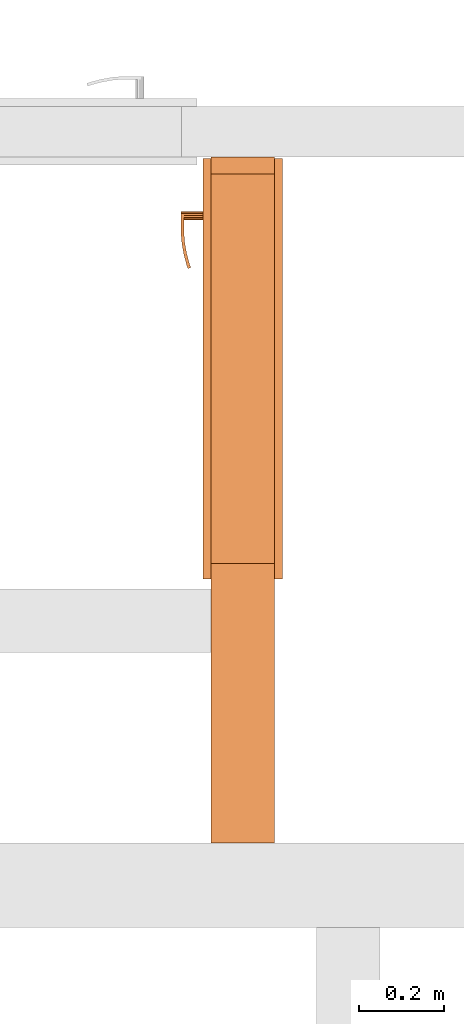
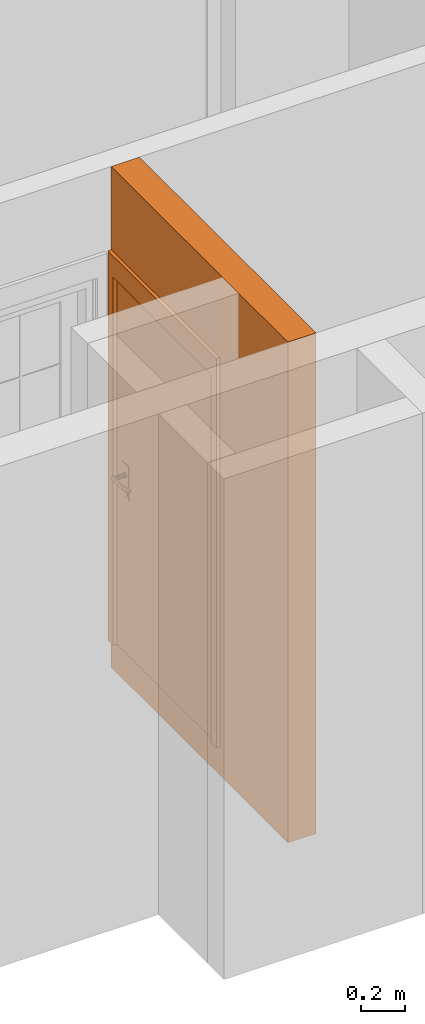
# One storey, part 33 of 66: 2 proxies, 1 opening.
"""IFC2X3 building model written with IfcOpenShell, lengths in millimetres."""

from ifc_helpers import new_model, entity, si_unit, converted_unit, derived_unit, money_unit, direction, frame, origin_with_axes, origin_2d_with_axis, place, context, subcontext, project, spatial, rectangle, extrude, open_shell, faceted_brep, surface_model, source, transform, mapped, material, type_object, element, fill, save


model = new_model("IFC2X3")

# Units and contexts
model_context = context("Model", 3, precision=0.01, world=origin_with_axes(), true_north=direction((0.34421633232, 0.938890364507)))
body_context = subcontext(model_context, "Body", "Model", "MODEL_VIEW")
ifc_project = project(units=[si_unit("LENGTHUNIT", "METRE", prefix="MILLI"), si_unit("AREAUNIT", "SQUARE_METRE"), si_unit("VOLUMEUNIT", "CUBIC_METRE"), converted_unit("PLANEANGLEUNIT", "DEGREE", entity("IfcPlaneAngleMeasure", 0.0174532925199), si_unit("PLANEANGLEUNIT", "RADIAN"), dimensions=[0, 0, 0, 0, 0, 0, 0]), si_unit("SOLIDANGLEUNIT", "STERADIAN"), money_unit("USD"), converted_unit("TIMEUNIT", "Year", entity("IfcTimeMeasure", 31556926.0), si_unit("TIMEUNIT", "SECOND"), dimensions=[0, 0, 1, 0, 0, 0, 0]), si_unit("MASSUNIT", "GRAM", prefix="KILO"), si_unit("THERMODYNAMICTEMPERATUREUNIT", "DEGREE_CELSIUS"), si_unit("LUMINOUSINTENSITYUNIT", "LUMEN"), si_unit("ENERGYUNIT", "JOULE", prefix="MEGA"), derived_unit("THERMALCONDUCTANCEUNIT", [(si_unit("POWERUNIT", "WATT"), 1), (si_unit("LENGTHUNIT", "METRE"), -1), (si_unit("THERMODYNAMICTEMPERATUREUNIT", "KELVIN"), -1)]), derived_unit("SPECIFICHEATCAPACITYUNIT", [(si_unit("ENERGYUNIT", "JOULE"), 1), (si_unit("MASSUNIT", "GRAM", prefix="KILO"), -1), (si_unit("THERMODYNAMICTEMPERATUREUNIT", "KELVIN"), -1)]), derived_unit("MASSDENSITYUNIT", [(si_unit("MASSUNIT", "GRAM", prefix="KILO"), 1), (si_unit("VOLUMEUNIT", "CUBIC_METRE"), -1)])], contexts=[model_context])

# Site, building, storey
site_placement = place(None, origin_with_axes())
site = spatial("IfcSite", under=ifc_project, at=site_placement, Name="USTRONIE MORSKIE", CompositionType="ELEMENT")
building_placement = place(site_placement, origin_with_axes())
building = spatial("IfcBuilding", under=site, at=building_placement, Name="Budynek", CompositionType="ELEMENT")
storey_placement = place(building_placement, frame((0.0, 0.0, 10000.0), z_axis=(0.0, 0.0, 1.0), x_axis=(1.0, 0.0, 0.0)))
storey = spatial("IfcBuildingStorey", under=building, at=storey_placement, Name="PIĘTRO 3", CompositionType="ELEMENT", Elevation=10000.0)

# Proxies, opening
ifc_material = material(Name="Bloczki silikatowe")
building_element_proxy_type_1 = type_object("IfcBuildingElementProxyType", Name="Bloczki silikatowe 150", PredefinedType="NOTDEFINED")
proxy_1_placement = place(storey_placement, frame((422592.920919, 744701.199036, -160.0), z_axis=(0.0, 0.0, 1.0), x_axis=(0.0, 1.0, 0.0)))
proxy_1 = element("IfcBuildingElementProxy", 1, at=proxy_1_placement, inside=storey, type_object=building_element_proxy_type_1, material=ifc_material, Name="SW-03", context=body_context, shape_type="Brep", body=[
    faceted_brep([(1720.0, 75.0, 0.0), (1720.0, -75.0, 0.0), (100.0, -75.0, 0.0), (100.0, 75.0, 0.0), (1720.0, 75.0, 2800.0), (1720.0, -75.0, 2800.0), (100.0, -75.0, 2800.0), (100.0, 75.0, 2800.0)], [[[0, 1, 2, 3]], [[1, 0, 4, 5]], [[1, 5, 6, 2]], [[7, 3, 2, 6]], [[4, 0, 3, 7]], [[5, 4, 7, 6]]]),
])
opening_placement = place(proxy_1_placement, frame((1220.0, 0.0, 160.0), z_axis=(0.0, 0.0, 1.0), x_axis=(1.0, 0.0, 0.0)))
opening = element("IfcOpeningElement", 2, at=opening_placement, cuts=proxy_1, Name="Dw.4", context=body_context, shape_type="SweptSolid", body=[
    extrude(rectangle(XDim=920.0, YDim=2070.0, at=origin_2d_with_axis()), frame((0.0, -150.0, 1035.0), z_axis=(0.0, -1.0, 0.0), x_axis=(-1.0, 0.0, 0.0)), (0.0, 0.0, -1.0), 450.0),
    extrude(rectangle(XDim=994.0, YDim=2177.0, at=origin_2d_with_axis()), frame((0.0, -75.0, 1088.5), z_axis=(0.0, -1.0, 0.0), x_axis=(-1.0, 0.0, 0.0)), (0.0, 0.0, 1.0), 150.0),
    extrude(rectangle(XDim=994.0, YDim=2177.0, at=origin_2d_with_axis()), frame((0.0, 75.0, 1088.5), z_axis=(0.0, 1.0, 0.0), x_axis=(-1.0, 0.0, 0.0)), (0.0, 0.0, 1.0), 150.0),
])
building_element_proxy_type_2 = type_object("IfcBuildingElementProxyType", Name="Drzwi 23", PredefinedType="NOTDEFINED")
shared_shape = source(origin_with_axes(), body_context, "Body", "SurfaceModel", [
    faceted_brep([(460.0, -115.0, 0.0), (460.0, -150.0, 0.0), (435.0, -150.0, 0.0), (435.0, -115.0, 0.0), (460.0, -115.0, 2070.0), (460.0, -150.0, 2070.0), (435.0, -150.0, 2045.0), (435.0, -115.0, 2045.0)], [[[0, 1, 2, 3]], [[4, 5, 1, 0]], [[1, 5, 6, 2]], [[3, 2, 6, 7]], [[0, 3, 7, 4]], [[7, 6, 5, 4]]]),
    faceted_brep([(-460.0, -115.0, 2070.0), (-460.0, -150.0, 2070.0), (-435.0, -150.0, 2045.0), (-435.0, -115.0, 2045.0), (-460.0, -115.0, 0.0), (-460.0, -150.0, 0.0), (-435.0, -150.0, 0.0), (-435.0, -115.0, 0.0)], [[[0, 1, 2, 3]], [[4, 5, 1, 0]], [[1, 5, 6, 2]], [[3, 2, 6, 7]], [[0, 3, 7, 4]], [[7, 6, 5, 4]]]),
    faceted_brep([(435.0, -115.0, 2045.0), (435.0, -150.0, 2045.0), (-435.0, -150.0, 2045.0), (-435.0, -115.0, 2045.0), (460.0, -115.0, 2070.0), (460.0, -150.0, 2070.0), (-460.0, -150.0, 2070.0), (-460.0, -115.0, 2070.0)], [[[0, 1, 2, 3]], [[4, 5, 1, 0]], [[1, 5, 6, 2]], [[3, 2, 6, 7]], [[0, 3, 7, 4]], [[7, 6, 5, 4]]]),
    faceted_brep([(497.0, -169.0, 0.0), (447.0, -169.0, 0.0), (447.0, -150.0, 0.0), (497.0, -150.0, 0.0), (497.0, -169.0, 2177.0), (447.0, -169.0, 2057.0), (447.0, -150.0, 2057.0), (497.0, -150.0, 2177.0)], [[[0, 1, 2, 3]], [[0, 4, 5, 1]], [[1, 5, 6, 2]], [[3, 2, 6, 7]], [[4, 0, 3, 7]], [[5, 4, 7, 6]]]),
    faceted_brep([(-497.0, -169.0, 2177.0), (-447.0, -169.0, 2057.0), (-447.0, -150.0, 2057.0), (-497.0, -150.0, 2177.0), (-497.0, -169.0, 0.0), (-447.0, -169.0, 0.0), (-447.0, -150.0, 0.0), (-497.0, -150.0, 0.0)], [[[0, 1, 2, 3]], [[0, 4, 5, 1]], [[1, 5, 6, 2]], [[3, 2, 6, 7]], [[4, 0, 3, 7]], [[5, 4, 7, 6]]]),
    faceted_brep([(497.0, -169.0, 2177.0), (447.0, -169.0, 2057.0), (447.0, -150.0, 2057.0), (497.0, -150.0, 2177.0), (-497.0, -169.0, 2177.0), (-447.0, -169.0, 2057.0), (-447.0, -150.0, 2057.0), (-497.0, -150.0, 2177.0)], [[[0, 1, 2, 3]], [[0, 4, 5, 1]], [[1, 5, 6, 2]], [[3, 2, 6, 7]], [[4, 0, 3, 7]], [[5, 4, 7, 6]]]),
    faceted_brep([(497.0, 19.0, 0.0), (497.0, 0.0, 0.0), (447.0, 0.0, 0.0), (447.0, 19.0, 0.0), (497.0, 19.0, 2177.0), (497.0, 0.0, 2177.0), (447.0, 0.0, 2057.0), (447.0, 19.0, 2057.0)], [[[0, 1, 2, 3]], [[4, 5, 1, 0]], [[1, 5, 6, 2]], [[3, 2, 6, 7]], [[0, 3, 7, 4]], [[7, 6, 5, 4]]]),
    faceted_brep([(-497.0, 19.0, 2177.0), (-497.0, 0.0, 2177.0), (-447.0, 0.0, 2057.0), (-447.0, 19.0, 2057.0), (-497.0, 19.0, 0.0), (-497.0, 0.0, 0.0), (-447.0, 0.0, 0.0), (-447.0, 19.0, 0.0)], [[[0, 1, 2, 3]], [[4, 5, 1, 0]], [[1, 5, 6, 2]], [[3, 2, 6, 7]], [[0, 3, 7, 4]], [[7, 6, 5, 4]]]),
    faceted_brep([(497.0, 19.0, 2177.0), (497.0, 0.0, 2177.0), (447.0, 0.0, 2057.0), (447.0, 19.0, 2057.0), (-497.0, 19.0, 2177.0), (-497.0, 0.0, 2177.0), (-447.0, 0.0, 2057.0), (-447.0, 19.0, 2057.0)], [[[0, 1, 2, 3]], [[4, 5, 1, 0]], [[1, 5, 6, 2]], [[3, 2, 6, 7]], [[0, 3, 7, 4]], [[7, 6, 5, 4]]]),
    faceted_brep([(400.0, -40.0, 0.0), (400.0, -115.0, 0.0), (400.0, -115.0, 2000.0), (400.0, -40.0, 2000.0), (412.0, -40.0, 0.0), (412.0, 0.0, 0.0), (460.0, 0.0, 0.0), (460.0, -115.0, 0.0), (460.0, -115.0, 2000.0), (412.0, -40.0, 2000.0), (460.0, 0.0, 2000.0), (412.0, 0.0, 2000.0)], [[[0, 1, 2, 3]], [[4, 5, 6, 7, 1, 0]], [[1, 7, 8, 2]], [[9, 3, 2, 8, 10, 11]], [[9, 4, 0, 3]], [[11, 5, 4, 9]], [[11, 10, 6, 5]], [[6, 10, 8, 7]]]),
    faceted_brep([(-412.0, -40.0, 2000.0), (-412.0, 0.0, 2000.0), (-460.0, 0.0, 2000.0), (-460.0, -115.0, 2000.0), (-400.0, -115.0, 2000.0), (-400.0, -40.0, 2000.0), (-412.0, -40.0, 0.0), (-412.0, 0.0, 0.0), (-460.0, 0.0, 0.0), (-460.0, -115.0, 0.0), (-400.0, -115.0, 0.0), (-400.0, -40.0, 0.0)], [[[0, 1, 2, 3, 4, 5]], [[0, 6, 7, 1]], [[7, 8, 2, 1]], [[2, 8, 9, 3]], [[3, 9, 10, 4]], [[5, 4, 10, 11]], [[5, 11, 6, 0]], [[6, 11, 10, 9, 8, 7]]]),
    faceted_brep([(412.0, 0.0, 2012.0), (-412.0, 0.0, 2012.0), (-412.0, 0.0, 2000.0), (-460.0, 0.0, 2000.0), (-460.0, 0.0, 2070.0), (460.0, 0.0, 2070.0), (460.0, 0.0, 2000.0), (412.0, 0.0, 2000.0), (412.0, -40.0, 2012.0), (-412.0, -40.0, 2012.0), (-412.0, -40.0, 2000.0), (-400.0, -40.0, 2000.0), (-400.0, -115.0, 2000.0), (-460.0, -115.0, 2000.0), (-460.0, -115.0, 2070.0), (460.0, -115.0, 2070.0), (460.0, -115.0, 2000.0), (412.0, -40.0, 2000.0), (400.0, -115.0, 2000.0), (400.0, -40.0, 2000.0)], [[[0, 1, 2, 3, 4, 5, 6, 7]], [[0, 8, 9, 1]], [[1, 9, 10, 2]], [[10, 11, 12, 13, 3, 2]], [[4, 3, 13, 14]], [[5, 4, 14, 15]], [[6, 5, 15, 16]], [[17, 7, 6, 16, 18, 19]], [[7, 17, 8, 0]], [[10, 9, 8, 17, 19, 11]], [[19, 18, 12, 11]], [[12, 18, 16, 15, 14, 13]]]),
    faceted_brep([(390.5, -40.0, 1060.0), (333.5, -40.0, 1060.0), (333.5, -43.0, 1060.0), (390.5, -43.0, 1060.0), (390.5, -40.0, 870.0), (333.5, -40.0, 870.0), (333.5, -43.0, 870.0), (390.5, -43.0, 870.0)], [[[0, 1, 2, 3]], [[0, 4, 5, 1]], [[1, 5, 6, 2]], [[3, 2, 6, 7]], [[4, 0, 3, 7]], [[5, 4, 7, 6]]]),
    faceted_brep([(362.0, -104.0, 990.0), (367.0, -104.0, 991.339745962), (367.0, -111.0, 991.339745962), (362.0, -111.0, 990.0), (337.0, -104.0, 990.0), (337.0, -104.0, 1010.0), (362.0, -104.0, 1010.0), (367.0, -104.0, 1008.66025404), (370.660254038, -104.0, 1005.0), (372.0, -104.0, 1000.0), (370.660254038, -104.0, 995.0), (370.660254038, -111.0, 995.0), (372.0, -111.0, 1000.0), (370.660254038, -111.0, 1005.0), (367.0, -111.0, 1008.66025404), (362.0, -111.0, 1010.0), (337.0, -111.0, 1010.0), (337.0, -111.0, 990.0)], [[[0, 1, 2, 3]], [[0, 4, 5, 6, 7, 8, 9, 10, 1]], [[1, 10, 11, 2]], [[3, 2, 11, 12, 13, 14, 15, 16, 17]], [[4, 0, 3, 17]], [[5, 4, 17, 16]], [[6, 5, 16, 15]], [[7, 6, 15, 14]], [[8, 7, 14, 13]], [[9, 8, 13, 12]], [[10, 9, 12, 11]]]),
    surface_model("IfcShellBasedSurfaceModel", [(337.0, -104.0, 1010.0), (323.901717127, -104.0, 1009.60730092), (323.596090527, -111.0, 1009.60730092), (337.0, -104.0, 990.0), (323.901717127, -104.0, 990.392699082), (296.890283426, -108.663544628, 1008.82190275), (337.0, -111.0, 1010.0), (337.0, -111.0, 990.0), (297.804837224, -101.716818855, 991.178097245), (297.804837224, -101.716818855, 1008.82190275), (296.890283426, -108.663544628, 991.178097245), (323.596090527, -111.0, 990.392699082), (272.006256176, -97.1678329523, 991.963495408), (272.006256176, -97.1678329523, 1008.03650459), (270.489735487, -104.008415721, 1008.03650459), (270.489735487, -104.008415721, 991.963495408), (246.702316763, -90.3876628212, 992.748893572), (246.702316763, -90.3876628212, 1007.25110643), (244.59537082, -97.0700416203, 1007.25110643), (244.59537082, -97.0700416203, 992.748893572), (238.829442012, -87.5221707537, 993.0), (238.829442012, -87.5221707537, 1007.0), (236.538795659, -94.1376880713, 1007.0), (236.538795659, -94.1376880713, 993.0)], [open_shell([[[0, 1, 2]], [[0, 3, 4, 1]], [[1, 5, 2]], [[0, 2, 6]], [[4, 3, 7]], [[1, 4, 8, 9]], [[1, 9, 5]], [[2, 5, 10, 11]], [[6, 2, 11, 7]], [[4, 7, 11]], [[8, 4, 11]], [[9, 8, 12, 13]], [[9, 14, 5]], [[5, 14, 15, 10]], [[8, 11, 10]], [[12, 8, 10]], [[13, 12, 16, 17]], [[9, 13, 14]], [[14, 18, 19, 15]], [[12, 10, 15]], [[16, 12, 15]], [[17, 16, 20, 21]], [[13, 17, 18]], [[13, 18, 14]], [[18, 22, 23, 19]], [[16, 15, 19]], [[20, 16, 19]], [[21, 20, 23, 22]], [[17, 21, 22]], [[17, 22, 18]], [[20, 19, 23]]])]),
    faceted_brep([(351.607695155, -53.0, 994.0), (350.0, -53.0, 1000.0), (349.0, -43.0, 1000.0), (350.741669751, -43.0, 993.5), (356.0, -53.0, 989.607695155), (362.0, -53.0, 988.0), (368.0, -53.0, 989.607695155), (372.392304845, -53.0, 994.0), (374.0, -53.0, 1000.0), (372.392304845, -53.0, 1006.0), (368.0, -53.0, 1010.39230485), (362.0, -53.0, 1012.0), (356.0, -53.0, 1010.39230485), (351.607695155, -53.0, 1006.0), (350.741669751, -43.0, 1006.5), (355.5, -43.0, 1011.25833025), (362.0, -43.0, 1013.0), (368.5, -43.0, 1011.25833025), (373.258330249, -43.0, 1006.5), (375.0, -43.0, 1000.0), (373.258330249, -43.0, 993.5), (368.5, -43.0, 988.741669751), (362.0, -43.0, 987.0), (355.5, -43.0, 988.741669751)], [[[0, 1, 2, 3]], [[1, 0, 4, 5, 6, 7, 8, 9, 10, 11, 12, 13]], [[1, 13, 14, 2]], [[2, 14, 15, 16, 17, 18, 19, 20, 21, 22, 23, 3]], [[4, 0, 3, 23]], [[5, 4, 23, 22]], [[6, 5, 22, 21]], [[7, 6, 21, 20]], [[8, 7, 20, 19]], [[9, 8, 19, 18]], [[10, 9, 18, 17]], [[11, 10, 17, 16]], [[12, 11, 16, 15]], [[13, 12, 15, 14]]]),
    faceted_brep([(344.679491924, -47.0, 895.0), (342.0, -47.0, 905.0), (340.0, -43.0, 905.0), (342.947441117, -43.0, 894.0), (352.0, -47.0, 887.679491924), (362.0, -47.0, 885.0), (372.0, -47.0, 887.679491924), (379.320508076, -47.0, 895.0), (382.0, -47.0, 905.0), (379.320508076, -47.0, 915.0), (372.0, -47.0, 922.320508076), (362.0, -47.0, 925.0), (352.0, -47.0, 922.320508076), (344.679491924, -47.0, 915.0), (342.947441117, -43.0, 916.0), (351.0, -43.0, 924.052558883), (362.0, -43.0, 927.0), (373.0, -43.0, 924.052558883), (381.052558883, -43.0, 916.0), (384.0, -43.0, 905.0), (381.052558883, -43.0, 894.0), (373.0, -43.0, 885.947441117), (362.0, -43.0, 883.0), (351.0, -43.0, 885.947441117)], [[[0, 1, 2, 3]], [[1, 0, 4, 5, 6, 7, 8, 9, 10, 11, 12, 13]], [[1, 13, 14, 2]], [[2, 14, 15, 16, 17, 18, 19, 20, 21, 22, 23, 3]], [[4, 0, 3, 23]], [[5, 4, 23, 22]], [[6, 5, 22, 21]], [[7, 6, 21, 20]], [[8, 7, 20, 19]], [[9, 8, 19, 18]], [[10, 9, 18, 17]], [[11, 10, 17, 16]], [[12, 11, 16, 15]], [[13, 12, 15, 14]]]),
    faceted_brep([(357.050252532, -49.0, 909.050252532), (355.0, -49.0, 914.0), (354.0, -47.0, 914.0), (356.343145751, -47.0, 908.343145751), (362.0, -49.0, 907.0), (366.949747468, -49.0, 909.050252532), (369.0, -49.0, 914.0), (366.949747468, -49.0, 918.949747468), (362.0, -49.0, 921.0), (357.050252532, -49.0, 918.949747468), (356.343145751, -47.0, 919.656854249), (362.0, -47.0, 922.0), (367.656854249, -47.0, 919.656854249), (370.0, -47.0, 914.0), (367.656854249, -47.0, 908.343145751), (362.0, -47.0, 906.0)], [[[0, 1, 2, 3]], [[1, 0, 4, 5, 6, 7, 8, 9]], [[1, 9, 10, 2]], [[2, 10, 11, 12, 13, 14, 15, 3]], [[4, 0, 3, 15]], [[5, 4, 15, 14]], [[6, 5, 14, 13]], [[7, 6, 13, 12]], [[8, 7, 12, 11]], [[9, 8, 11, 10]]]),
    faceted_brep([(362.0, -53.0, 1010.0), (357.0, -53.0, 1008.66025404), (357.0, -104.0, 1008.66025404), (362.0, -104.0, 1010.0), (367.0, -53.0, 1008.66025404), (370.660254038, -53.0, 1005.0), (372.0, -53.0, 1000.0), (370.660254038, -53.0, 995.0), (367.0, -53.0, 991.339745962), (362.0, -53.0, 990.0), (357.0, -53.0, 991.339745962), (353.339745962, -53.0, 995.0), (352.0, -53.0, 1000.0), (353.339745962, -53.0, 1005.0), (353.339745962, -104.0, 1005.0), (352.0, -104.0, 1000.0), (353.339745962, -104.0, 995.0), (357.0, -104.0, 991.339745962), (362.0, -104.0, 990.0), (367.0, -104.0, 991.339745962), (370.660254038, -104.0, 995.0), (372.0, -104.0, 1000.0), (370.660254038, -104.0, 1005.0), (367.0, -104.0, 1008.66025404)], [[[0, 1, 2, 3]], [[0, 4, 5, 6, 7, 8, 9, 10, 11, 12, 13, 1]], [[1, 13, 14, 2]], [[3, 2, 14, 15, 16, 17, 18, 19, 20, 21, 22, 23]], [[4, 0, 3, 23]], [[5, 4, 23, 22]], [[6, 5, 22, 21]], [[7, 6, 21, 20]], [[8, 7, 20, 19]], [[9, 8, 19, 18]], [[10, 9, 18, 17]], [[11, 10, 17, 16]], [[12, 11, 16, 15]], [[13, 12, 15, 14]]]),
    faceted_brep([(390.5, 0.0, 1060.0), (390.5, 3.0, 1060.0), (333.5, 3.0, 1060.0), (333.5, 0.0, 1060.0), (390.5, 0.0, 870.0), (390.5, 3.0, 870.0), (333.5, 3.0, 870.0), (333.5, 0.0, 870.0)], [[[0, 1, 2, 3]], [[4, 5, 1, 0]], [[1, 5, 6, 2]], [[3, 2, 6, 7]], [[0, 3, 7, 4]], [[7, 6, 5, 4]]]),
    faceted_brep([(362.0, 64.0, 990.0), (362.0, 71.0, 990.0), (367.0, 71.0, 991.339745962), (367.0, 64.0, 991.339745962), (337.0, 64.0, 990.0), (337.0, 71.0, 990.0), (337.0, 71.0, 1010.0), (362.0, 71.0, 1010.0), (367.0, 71.0, 1008.66025404), (370.660254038, 71.0, 1005.0), (372.0, 71.0, 1000.0), (370.660254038, 71.0, 995.0), (370.660254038, 64.0, 995.0), (372.0, 64.0, 1000.0), (370.660254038, 64.0, 1005.0), (367.0, 64.0, 1008.66025404), (362.0, 64.0, 1010.0), (337.0, 64.0, 1010.0)], [[[0, 1, 2, 3]], [[4, 5, 1, 0]], [[1, 5, 6, 7, 8, 9, 10, 11, 2]], [[3, 2, 11, 12]], [[0, 3, 12, 13, 14, 15, 16, 17, 4]], [[17, 6, 5, 4]], [[16, 7, 6, 17]], [[15, 8, 7, 16]], [[14, 9, 8, 15]], [[13, 10, 9, 14]], [[12, 11, 10, 13]]]),
    surface_model("IfcShellBasedSurfaceModel", [(337.0, 64.0, 1010.0), (323.596090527, 71.0, 1009.60730092), (323.901717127, 64.0, 1009.60730092), (337.0, 71.0, 1010.0), (296.890283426, 68.6635446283, 1008.82190275), (323.901717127, 64.0, 990.392699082), (337.0, 64.0, 990.0), (337.0, 71.0, 990.0), (323.596090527, 71.0, 990.392699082), (296.890283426, 68.6635446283, 991.178097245), (297.804837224, 61.716818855, 1008.82190275), (297.804837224, 61.716818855, 991.178097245), (270.489735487, 64.0084157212, 991.963495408), (270.489735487, 64.0084157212, 1008.03650459), (272.006256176, 57.1678329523, 1008.03650459), (272.006256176, 57.1678329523, 991.963495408), (244.59537082, 57.0700416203, 992.748893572), (244.59537082, 57.0700416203, 1007.25110643), (246.702316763, 50.3876628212, 1007.25110643), (246.702316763, 50.3876628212, 992.748893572), (236.538795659, 54.1376880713, 993.0), (236.538795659, 54.1376880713, 1007.0), (238.829442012, 47.5221707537, 1007.0), (238.829442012, 47.5221707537, 993.0)], [open_shell([[[0, 1, 2]], [[0, 3, 1]], [[2, 1, 4]], [[0, 2, 5, 6]], [[3, 7, 8, 1]], [[1, 8, 9, 4]], [[2, 4, 10]], [[2, 10, 11, 5]], [[5, 7, 6]], [[5, 8, 7]], [[11, 9, 8]], [[4, 9, 12, 13]], [[10, 4, 13]], [[10, 14, 15, 11]], [[11, 8, 5]], [[15, 9, 11]], [[15, 12, 9]], [[13, 12, 16, 17]], [[10, 13, 14]], [[14, 18, 19, 15]], [[19, 12, 15]], [[19, 16, 12]], [[17, 16, 20, 21]], [[14, 13, 17]], [[14, 17, 18]], [[18, 22, 23, 19]], [[23, 16, 19]], [[23, 20, 16]], [[22, 21, 20, 23]], [[18, 17, 21]], [[18, 21, 22]]])]),
    faceted_brep([(351.607695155, 13.0, 994.0), (350.741669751, 3.0, 993.5), (349.0, 3.0, 1000.0), (350.0, 13.0, 1000.0), (356.0, 13.0, 989.607695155), (355.5, 3.0, 988.741669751), (362.0, 3.0, 987.0), (368.5, 3.0, 988.741669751), (373.258330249, 3.0, 993.5), (375.0, 3.0, 1000.0), (373.258330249, 3.0, 1006.5), (368.5, 3.0, 1011.25833025), (362.0, 3.0, 1013.0), (355.5, 3.0, 1011.25833025), (350.741669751, 3.0, 1006.5), (351.607695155, 13.0, 1006.0), (356.0, 13.0, 1010.39230485), (362.0, 13.0, 1012.0), (368.0, 13.0, 1010.39230485), (372.392304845, 13.0, 1006.0), (374.0, 13.0, 1000.0), (372.392304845, 13.0, 994.0), (368.0, 13.0, 989.607695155), (362.0, 13.0, 988.0)], [[[0, 1, 2, 3]], [[4, 5, 1, 0]], [[2, 1, 5, 6, 7, 8, 9, 10, 11, 12, 13, 14]], [[3, 2, 14, 15]], [[3, 15, 16, 17, 18, 19, 20, 21, 22, 23, 4, 0]], [[23, 6, 5, 4]], [[22, 7, 6, 23]], [[21, 8, 7, 22]], [[20, 9, 8, 21]], [[19, 10, 9, 20]], [[18, 11, 10, 19]], [[17, 12, 11, 18]], [[16, 13, 12, 17]], [[15, 14, 13, 16]]]),
    faceted_brep([(344.679491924, 7.0, 895.0), (342.947441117, 3.0, 894.0), (340.0, 3.0, 905.0), (342.0, 7.0, 905.0), (352.0, 7.0, 887.679491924), (351.0, 3.0, 885.947441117), (362.0, 3.0, 883.0), (373.0, 3.0, 885.947441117), (381.052558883, 3.0, 894.0), (384.0, 3.0, 905.0), (381.052558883, 3.0, 916.0), (373.0, 3.0, 924.052558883), (362.0, 3.0, 927.0), (351.0, 3.0, 924.052558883), (342.947441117, 3.0, 916.0), (344.679491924, 7.0, 915.0), (352.0, 7.0, 922.320508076), (362.0, 7.0, 925.0), (372.0, 7.0, 922.320508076), (379.320508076, 7.0, 915.0), (382.0, 7.0, 905.0), (379.320508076, 7.0, 895.0), (372.0, 7.0, 887.679491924), (362.0, 7.0, 885.0)], [[[0, 1, 2, 3]], [[4, 5, 1, 0]], [[2, 1, 5, 6, 7, 8, 9, 10, 11, 12, 13, 14]], [[3, 2, 14, 15]], [[3, 15, 16, 17, 18, 19, 20, 21, 22, 23, 4, 0]], [[23, 6, 5, 4]], [[22, 7, 6, 23]], [[21, 8, 7, 22]], [[20, 9, 8, 21]], [[19, 10, 9, 20]], [[18, 11, 10, 19]], [[17, 12, 11, 18]], [[16, 13, 12, 17]], [[15, 14, 13, 16]]]),
    faceted_brep([(357.050252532, 9.0, 909.050252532), (356.343145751, 7.0, 908.343145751), (354.0, 7.0, 914.0), (355.0, 9.0, 914.0), (362.0, 9.0, 907.0), (362.0, 7.0, 906.0), (367.656854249, 7.0, 908.343145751), (370.0, 7.0, 914.0), (367.656854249, 7.0, 919.656854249), (362.0, 7.0, 922.0), (356.343145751, 7.0, 919.656854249), (357.050252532, 9.0, 918.949747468), (362.0, 9.0, 921.0), (366.949747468, 9.0, 918.949747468), (369.0, 9.0, 914.0), (366.949747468, 9.0, 909.050252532)], [[[0, 1, 2, 3]], [[4, 5, 1, 0]], [[2, 1, 5, 6, 7, 8, 9, 10]], [[3, 2, 10, 11]], [[3, 11, 12, 13, 14, 15, 4, 0]], [[15, 6, 5, 4]], [[14, 7, 6, 15]], [[13, 8, 7, 14]], [[12, 9, 8, 13]], [[11, 10, 9, 12]]]),
    faceted_brep([(362.0, 13.0, 1010.0), (362.0, 64.0, 1010.0), (357.0, 64.0, 1008.66025404), (357.0, 13.0, 1008.66025404), (367.0, 13.0, 1008.66025404), (367.0, 64.0, 1008.66025404), (370.660254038, 64.0, 1005.0), (372.0, 64.0, 1000.0), (370.660254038, 64.0, 995.0), (367.0, 64.0, 991.339745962), (362.0, 64.0, 990.0), (357.0, 64.0, 991.339745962), (353.339745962, 64.0, 995.0), (352.0, 64.0, 1000.0), (353.339745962, 64.0, 1005.0), (353.339745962, 13.0, 1005.0), (352.0, 13.0, 1000.0), (353.339745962, 13.0, 995.0), (357.0, 13.0, 991.339745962), (362.0, 13.0, 990.0), (367.0, 13.0, 991.339745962), (370.660254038, 13.0, 995.0), (372.0, 13.0, 1000.0), (370.660254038, 13.0, 1005.0)], [[[0, 1, 2, 3]], [[4, 5, 1, 0]], [[1, 5, 6, 7, 8, 9, 10, 11, 12, 13, 14, 2]], [[3, 2, 14, 15]], [[0, 3, 15, 16, 17, 18, 19, 20, 21, 22, 23, 4]], [[23, 6, 5, 4]], [[22, 7, 6, 23]], [[21, 8, 7, 22]], [[20, 9, 8, 21]], [[19, 10, 9, 20]], [[18, 11, 10, 19]], [[17, 12, 11, 18]], [[16, 13, 12, 17]], [[15, 14, 13, 16]]]),
    faceted_brep([(-412.0, 0.0, 0.0), (412.0, 0.0, 0.0), (412.0, -40.0, 0.0), (-412.0, -40.0, 0.0), (-412.0, 0.0, 2012.0), (412.0, 0.0, 2012.0), (412.0, -40.0, 2012.0), (-412.0, -40.0, 2012.0)], [[[0, 1, 2, 3]], [[0, 4, 5, 1]], [[1, 5, 6, 2]], [[3, 2, 6, 7]], [[4, 0, 3, 7]], [[5, 4, 7, 6]]]),
])
proxy_2_placement = place(opening_placement, frame((-400.0, 0.0, 0.0), z_axis=(0.0, 0.0, 1.0), x_axis=(1.0, 0.0, 0.0)))
proxy_2 = element("IfcBuildingElementProxy", 3, at=proxy_2_placement, inside=storey, type_object=building_element_proxy_type_2, Name="Dw.4", context=body_context, shape_type="MappedRepresentation", body=[
    mapped(shared_shape, transform((400.0, 75.0, 0.0))),
])
fill(opening, proxy_2)

save(model, "model.ifc")
